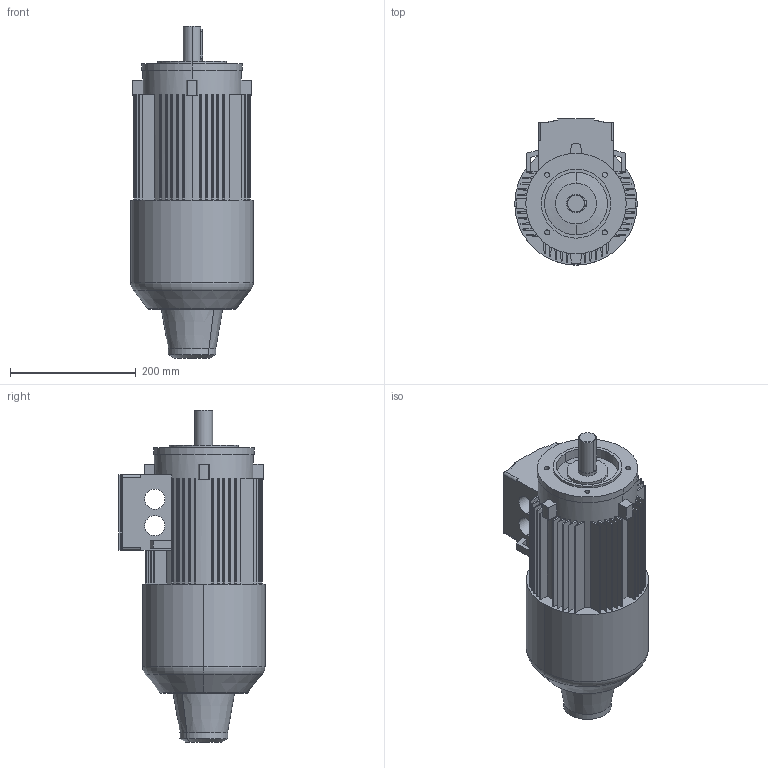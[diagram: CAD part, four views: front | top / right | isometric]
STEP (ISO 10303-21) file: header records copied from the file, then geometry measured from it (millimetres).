
FILE_DESCRIPTION((''),'2;1');
FILE_NAME('1LA7106-2AA12-Z-H62_PRT','2002-04-12T',('martin könig'),(''),'PRO/ENGINEER BY PARAMETRIC TECHNOLOGY CORPORATION, 2002030','PRO/ENGINEER BY PARAMETRIC TECHNOLOGY CORPORATION, 2002030','');
FILE_SCHEMA(('CONFIG_CONTROL_DESIGN'));
Length unit declared in the file: millimetre
Products named in the file (1): 1LA7106-2AA12-Z-H62_PRT
Bounding box: 195 x 232.5 x 528.5 mm (x, y, z)
Volume: 10491781.2 mm3; surface area: 528838 mm2
Topology: 1 solids, 1 shells, 279 faces, 773 edges, 510 vertices
Faces by surface type: plane 170, cylinder 91, cone 14, torus 4
Entity records: 9112 total; most frequent: CARTESIAN_POINT 1683, DIRECTION 1579, ORIENTED_EDGE 1546, EDGE_CURVE 773, AXIS2_PLACEMENT_3D 537, VERTEX_POINT 510, VECTOR 505, LINE 505
